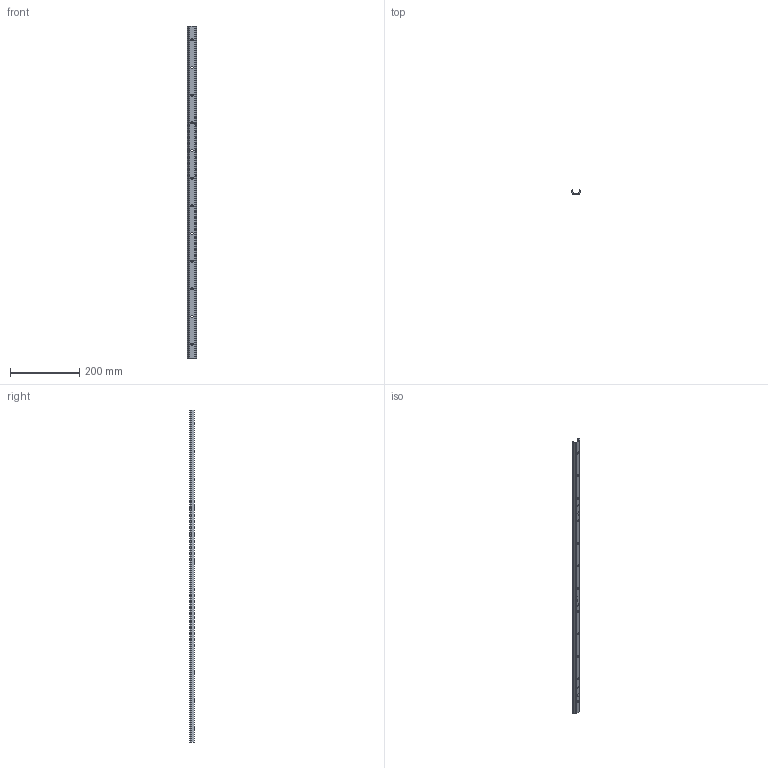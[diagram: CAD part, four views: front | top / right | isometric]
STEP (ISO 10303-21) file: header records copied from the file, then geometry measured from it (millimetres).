
FILE_DESCRIPTION(('STEP AP214'),'1');
FILE_NAME('rail_tex26-960.stp','2019-03-08T08:28:49',('TraceParts'),('TraceParts S.A.'),'Spatial InterOp 3D',' ',' ');
FILE_SCHEMA(('automotive_design'));
Length unit declared in the file: millimetre
Products named in the file (1): rail_tex26-960
Bounding box: 26.06 x 14 x 960 mm (x, y, z)
Volume: 99386.4 mm3; surface area: 84766.7 mm2
Topology: 1 solids, 1 shells, 221 faces, 576 edges, 384 vertices
Faces by surface type: plane 152, cylinder 36, bspline 33
Entity records: 13613 total; most frequent: CARTESIAN_POINT 6483, ORIENTED_EDGE 1152, DIRECTION 960, EDGE_CURVE 576, LINE 438, VECTOR 438, VERTEX_POINT 384, EDGE_LOOP 272
